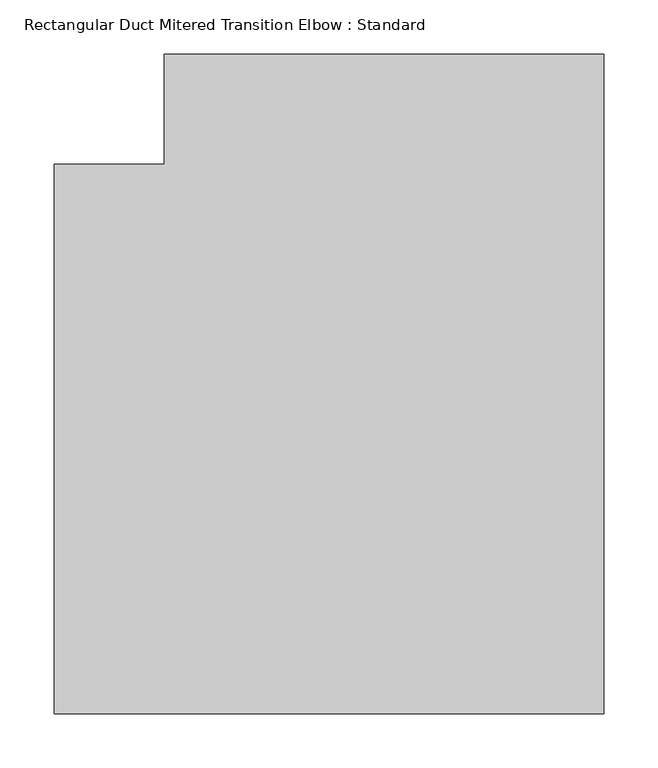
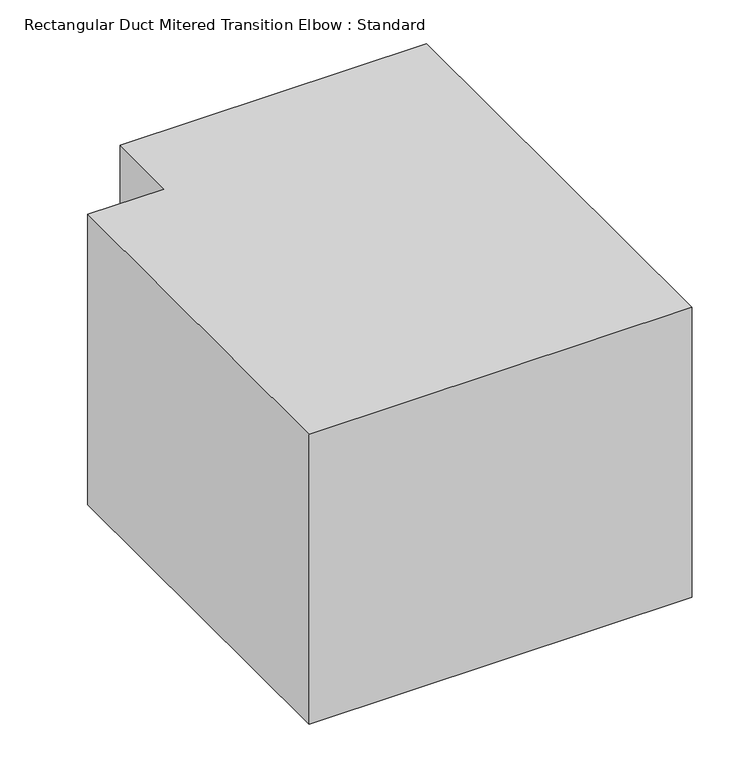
"""IFC4 building model written with IfcOpenShell, lengths in millimetres: duct fitting geometry, Rectangular Duct Mitered Transition Elbow : Standard."""

from ifc_helpers import new_model, si_unit, frame, origin, place, context, project, spatial, polyline, outline, extrude, source, transform, mapped, element, save


def rectangular_duct_mitered_transition_elbow_standard_b977c078(model_context):
    return source(origin(), model_context, "Body", "SweptSolid", [
        extrude(outline(polyline([(-304.8, -254.0), (-304.8, 254.0), (-203.2, 254.0), (-203.2, 355.6), (203.2, 355.6), (203.2, -254.0), (-304.8, -254.0)])), frame((0.0, 0.0, -203.2), z_axis=(0.0, 0.0, 1.0), x_axis=(1.0, 0.0, 0.0)), (0.0, 0.0, 1.0), 406.4),
        extrude(outline(polyline([(-304.8, -254.0), (-304.8, 254.0), (-203.2, 254.0), (-203.2, 355.6), (203.2, 355.6), (203.2, -254.0), (-304.8, -254.0)])), frame((0.0, 0.0, -203.2), z_axis=(0.0, 0.0, 1.0), x_axis=(1.0, 0.0, 0.0)), (0.0, 0.0, 1.0), 406.4),
        extrude(outline(polyline([(-203.2, 254.0), (-203.2, 355.6), (203.2, 355.6), (203.2, -254.0), (-304.8, -254.0), (-304.8, 254.0), (-203.2, 254.0)])), frame((0.0, 0.0, -203.2), z_axis=(0.0, 0.0, 1.0), x_axis=(1.0, 0.0, 0.0)), (0.0, 0.0, 1.0), 406.4),
    ])


if __name__ == "__main__":
    model = new_model("IFC4")
    model_context = context("Model", 3, world=origin())
    ifc_project = project(units=[si_unit("LENGTHUNIT", "METRE", prefix="MILLI")], contexts=[model_context])
    site = spatial("IfcSite", under=ifc_project)
    building = spatial("IfcBuilding", under=site)
    placement = place(None, origin())
    rectangular_duct_mitered_transition_elbow_standard_shape = rectangular_duct_mitered_transition_elbow_standard_b977c078(model_context)
    element("IfcDuctFitting", 1, ObjectType="Rectangular Duct Mitered Transition Elbow : Standard", at=placement, inside=building, context=model_context, shape_type="MappedRepresentation", body=[
        mapped(rectangular_duct_mitered_transition_elbow_standard_shape, transform((0.0, 0.0, 0.0), x_axis=(1.0, 0.0, 0.0), y_axis=(0.0, 1.0, 0.0), z_axis=(0.0, 0.0, 1.0))),
    ])
    save(model, "model.ifc")
